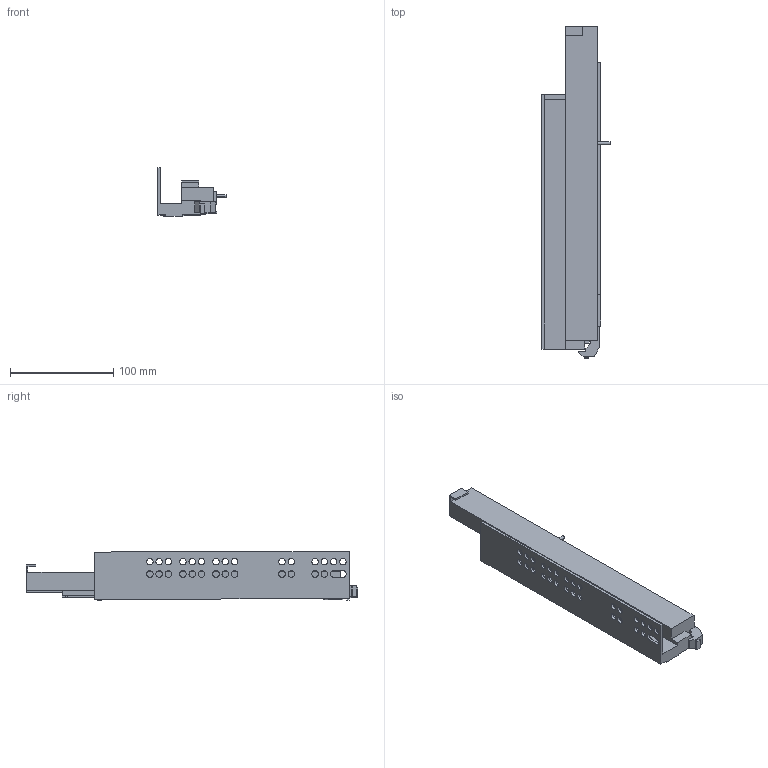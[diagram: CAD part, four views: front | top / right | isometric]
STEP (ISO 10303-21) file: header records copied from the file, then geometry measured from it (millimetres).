
FILE_DESCRIPTION (( 'STEP AP203' ), '1' );
FILE_NAME ('IMOS_Dynapro_Tipmatic_D51_NL_0_LI.STEP', '2013-03-22T12:16:41', ( 'Grass GmbH' ), ( 'Grass GmbH' ), 'SwSTEP 2.0', 'SolidWorks 2012', '' );
FILE_SCHEMA (( 'CONFIG_CONTROL_DESIGN' ));
Length unit declared in the file: millimetre
Products named in the file (1): IMOS_Dynapro_Tipmatic_D51_NL_0_LI
Bounding box: 65.92 x 321.55 x 47.46 mm (x, y, z)
Volume: 313416.1 mm3; surface area: 74175.1 mm2
Topology: 1 solids, 1 shells, 162 faces, 464 edges, 309 vertices
Faces by surface type: plane 97, cylinder 65
Entity records: 5503 total; most frequent: CARTESIAN_POINT 936, ORIENTED_EDGE 928, DIRECTION 920, EDGE_CURVE 464, VECTOR 334, LINE 334, VERTEX_POINT 309, AXIS2_PLACEMENT_3D 293
